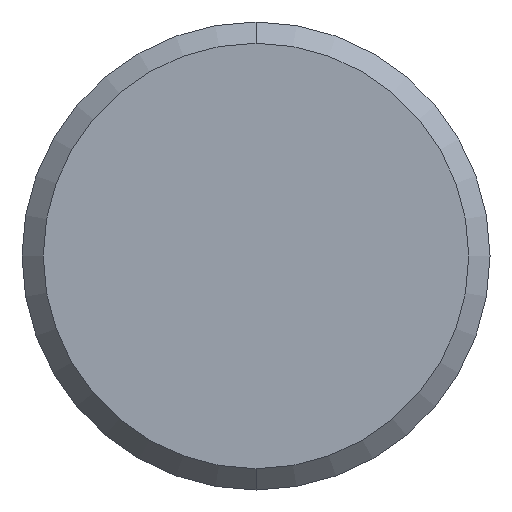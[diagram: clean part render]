
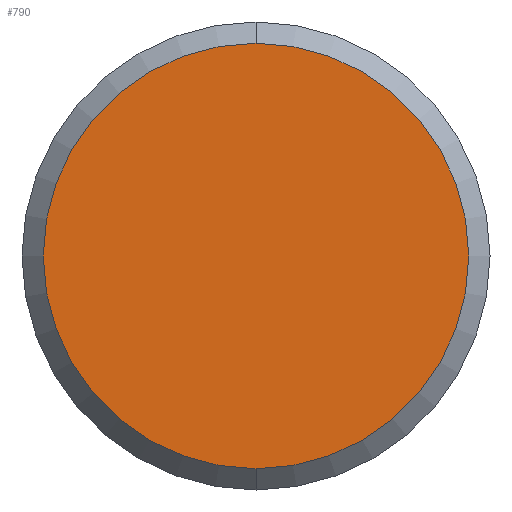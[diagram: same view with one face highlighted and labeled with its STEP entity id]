
A CAD part, front view. The second image highlights one B-rep face of the part: STEP entity #790.
In plain terms, the highlighted planar face has unit normal (0, -1, 0).
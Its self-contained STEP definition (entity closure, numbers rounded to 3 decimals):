
#54 = VERTEX_POINT ( 'NONE', #79 ) ;
#79 = CARTESIAN_POINT ( 'NONE',  ( 0., 0., -10. ) ) ;
#103 = DIRECTION ( 'NONE',  ( 0., 0., 1. ) ) ;
#134 = CARTESIAN_POINT ( 'NONE',  ( 0., 0., 10. ) ) ;
#157 = CIRCLE ( 'NONE', #314, 10. ) ;
#178 = DIRECTION ( 'NONE',  ( 0., 1., 0. ) ) ;
#213 = PLANE ( 'NONE',  #398 ) ;
#256 = EDGE_LOOP ( 'NONE', ( #342, #907 ) ) ;
#314 = AXIS2_PLACEMENT_3D ( 'NONE', #617, #178, #946 ) ;
#342 = ORIENTED_EDGE ( 'NONE', *, *, #439, .F. ) ;
#398 = AXIS2_PLACEMENT_3D ( 'NONE', #772, #1432, #103 ) ;
#439 = EDGE_CURVE ( 'NONE', #54, #888, #157, .T. ) ;
#483 = CARTESIAN_POINT ( 'NONE',  ( 0., 0., 0. ) ) ;
#617 = CARTESIAN_POINT ( 'NONE',  ( 0., 0., 0. ) ) ;
#660 = FACE_OUTER_BOUND ( 'NONE', #256, .T. ) ;
#772 = CARTESIAN_POINT ( 'NONE',  ( 0., 0., 0. ) ) ;
#790 = ADVANCED_FACE ( 'NONE', ( #660 ), #213, .F. ) ;
#888 = VERTEX_POINT ( 'NONE', #134 ) ;
#907 = ORIENTED_EDGE ( 'NONE', *, *, #1314, .F. ) ;
#915 = DIRECTION ( 'NONE',  ( 0., 1., 0. ) ) ;
#946 = DIRECTION ( 'NONE',  ( 0., 0., 1. ) ) ;
#1026 = DIRECTION ( 'NONE',  ( 0., 0., 1. ) ) ;
#1045 = AXIS2_PLACEMENT_3D ( 'NONE', #483, #915, #1026 ) ;
#1307 = CIRCLE ( 'NONE', #1045, 10. ) ;
#1314 = EDGE_CURVE ( 'NONE', #888, #54, #1307, .T. ) ;
#1432 = DIRECTION ( 'NONE',  ( 0., 1., 0. ) ) ;
